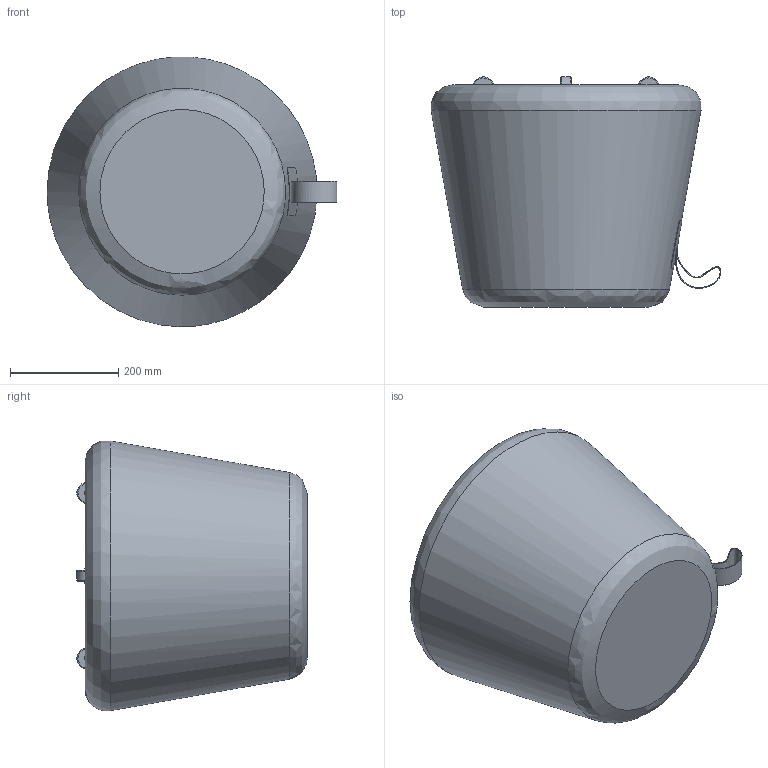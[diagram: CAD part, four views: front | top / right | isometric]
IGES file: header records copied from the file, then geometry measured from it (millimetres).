
Global section: file name: Doppio D.380 movil; native system: Autodesk Inventor 2021; preprocessor: unknown; author: auxdiseno; date: 20220906.161937; units: millimetre
Bounding box: 536.23 x 426 x 499.61 mm (x, y, z)
Volume: 56905374.2 mm3; surface area: 1017003.9 mm2
Topology: 27 solids, 27 shells, 691 faces, 1937 edges, 1293 vertices
Faces by surface type: bspline 691
